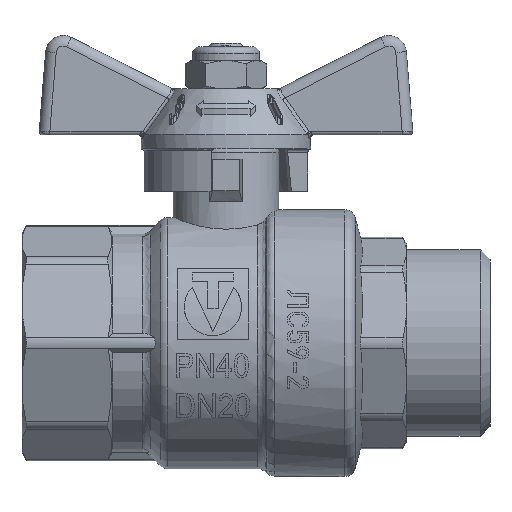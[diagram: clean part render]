
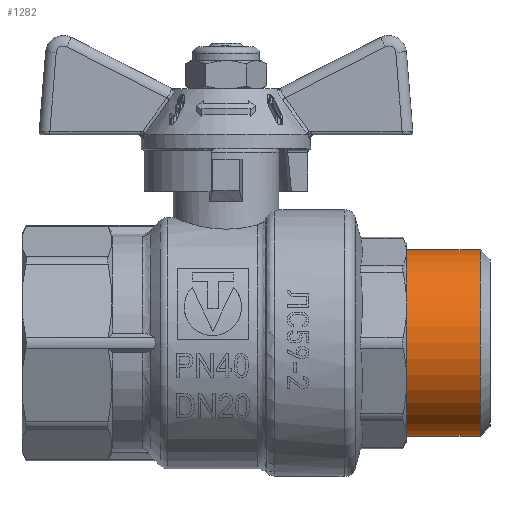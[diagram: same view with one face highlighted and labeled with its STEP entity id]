
A CAD part, top view. The second image highlights one B-rep face of the part: STEP entity #1282.
In plain terms, the highlighted cylindrical face has radius 13.22 mm (diameter 26.441 mm), a full revolution.
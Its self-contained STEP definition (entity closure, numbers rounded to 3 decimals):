
#1282=ADVANCED_FACE('',(#11415,#11417),#11419,.T.);
#11415=FACE_OUTER_BOUND('',#11416,.T.);
#11416=EDGE_LOOP('',(#22880));
#11417=FACE_OUTER_BOUND('',#11418,.T.);
#11418=EDGE_LOOP('',(#22881));
#11419=CYLINDRICAL_SURFACE('',#11420,13.221);
#11420=AXIS2_PLACEMENT_3D('',#11421,#11422,#11423);
#11421=CARTESIAN_POINT('',(7.5,0.,0.));
#11422=DIRECTION('',(1.,0.,0.));
#11423=DIRECTION('',(0.,1.,0.));
#22880=ORIENTED_EDGE('',*,*,#29303,.T.);
#22881=ORIENTED_EDGE('',*,*,#29225,.F.);
#29225=EDGE_CURVE('',#37127,#37127,#37128,.T.);
#29303=EDGE_CURVE('',#37213,#37213,#37214,.F.);
#37127=VERTEX_POINT('',#63619);
#37128=CIRCLE('',#63620,13.221);
#37213=VERTEX_POINT('',#63939);
#37214=CIRCLE('',#63940,13.221);
#63619=CARTESIAN_POINT('',(25.6,13.221,0.));
#63620=AXIS2_PLACEMENT_3D('',#63621,#63622,#63623);
#63621=CARTESIAN_POINT('',(25.6,0.,0.));
#63622=DIRECTION('',(-1.,0.,0.));
#63623=DIRECTION('',(0.,1.,0.));
#63939=CARTESIAN_POINT('',(36.,13.221,0.));
#63940=AXIS2_PLACEMENT_3D('',#63941,#63942,#63943);
#63941=CARTESIAN_POINT('',(36.,0.,0.));
#63942=DIRECTION('',(1.,0.,0.));
#63943=DIRECTION('',(0.,1.,0.));
